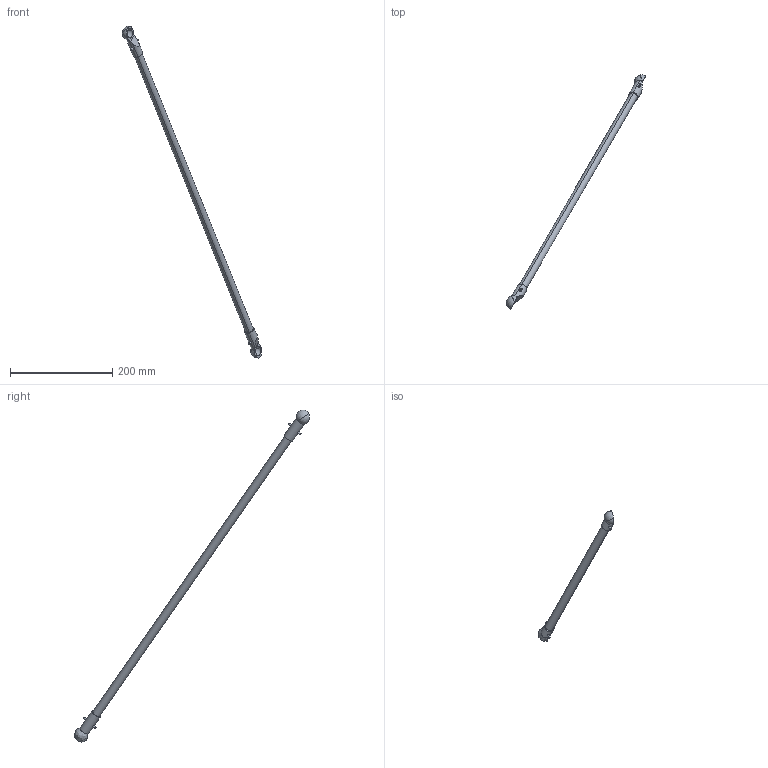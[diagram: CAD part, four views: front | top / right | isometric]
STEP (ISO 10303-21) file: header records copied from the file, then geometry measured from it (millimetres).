
FILE_DESCRIPTION (( 'STEP AP214' ), '1' );
FILE_NAME ('IRB360_8-1130-STD-4D_rev03_LA2_1_CAD.STEP', '2025-05-19T14:23:01', ( '' ), ( '' ), 'SwSTEP 2.0', 'SolidWorks 2022', '' );
FILE_SCHEMA (( 'AUTOMOTIVE_DESIGN' ));
Length unit declared in the file: millimetre
Products named in the file (1): IRB360_8-1130-STD-4D_rev03_LA2_1_CAD
Bounding box: 273.29 x 460.8 x 650.9 mm (x, y, z)
Volume: 172345.4 mm3; surface area: 44607.8 mm2
Topology: 1 solids, 1 shells, 39 faces, 106 edges, 66 vertices
Faces by surface type: cylinder 16, sphere 12, plane 10, bspline 1
Entity records: 1618 total; most frequent: CARTESIAN_POINT 533, DIRECTION 194, ORIENTED_EDGE 184, EDGE_CURVE 92, AXIS2_PLACEMENT_3D 87, VERTEX_POINT 61, CIRCLE 48, EDGE_LOOP 45
